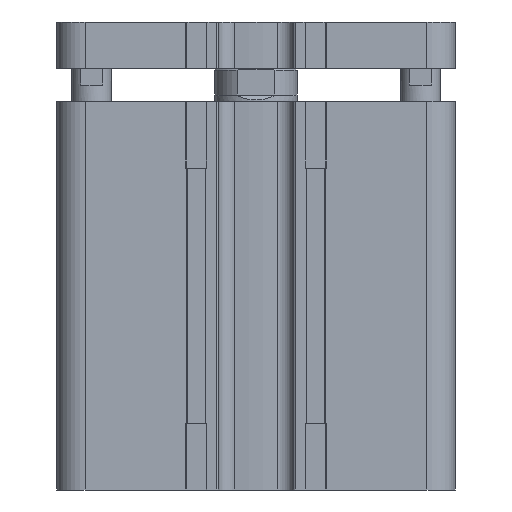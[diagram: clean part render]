
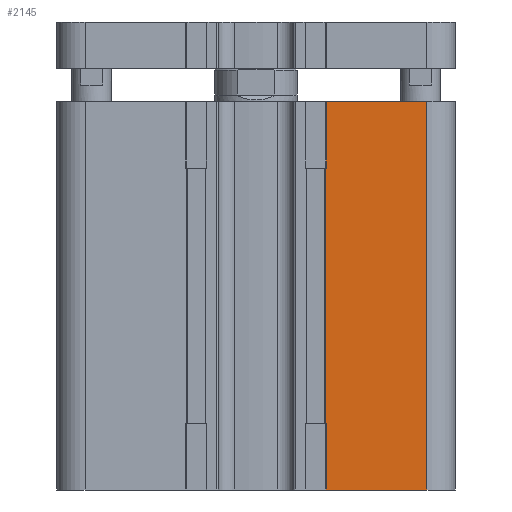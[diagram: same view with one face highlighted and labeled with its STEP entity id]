
A CAD part, front view. The second image highlights one B-rep face of the part: STEP entity #2145.
In plain terms, the highlighted planar face has unit normal (0, -1, 0).
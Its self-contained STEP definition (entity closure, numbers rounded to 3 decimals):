
#1006 = CARTESIAN_POINT ( 'NONE',  ( 20.875, -60., 77. ) ) ;
#1011 = CARTESIAN_POINT ( 'NONE',  ( 21.2, -60., 77. ) ) ;
#1012 = CARTESIAN_POINT ( 'NONE',  ( 20.875, -60., 0. ) ) ;
#1013 = CARTESIAN_POINT ( 'NONE',  ( 51.5, -60., 97. ) ) ;
#2145 = ADVANCED_FACE ( 'NONE', ( #22958 ), #24031, .F. ) ;
#2507 = VERTEX_POINT ( 'NONE', #1006 ) ;
#2510 = VERTEX_POINT ( 'NONE', #1011 ) ;
#2512 = VERTEX_POINT ( 'NONE', #1012 ) ;
#2514 = VERTEX_POINT ( 'NONE', #1013 ) ;
#3024 = EDGE_LOOP ( 'NONE', ( #19832, #19833, #19834, #19835, #19836, #19837, #19838, #19839 ) ) ;
#3893 = EDGE_CURVE ( 'NONE', #20493, #20695, #23821, .T. ) ;
#4142 = EDGE_CURVE ( 'NONE', #21070, #2510, #8670, .T. ) ;
#4144 = EDGE_CURVE ( 'NONE', #2507, #2510, #8672, .T. ) ;
#4146 = EDGE_CURVE ( 'NONE', #2507, #2512, #8674, .T. ) ;
#4148 = EDGE_CURVE ( 'NONE', #2512, #20493, #8676, .T. ) ;
#4150 = EDGE_CURVE ( 'NONE', #21066, #20695, #8678, .T. ) ;
#4153 = EDGE_CURVE ( 'NONE', #21066, #2514, #8680, .T. ) ;
#4154 = EDGE_CURVE ( 'NONE', #21070, #2514, #8682, .T. ) ;
#4837 = CARTESIAN_POINT ( 'NONE',  ( 21.2, -60., -20. ) ) ;
#4851 = DIRECTION ( 'NONE',  ( 0., 0., -1. ) ) ;
#5335 = CARTESIAN_POINT ( 'NONE',  ( 21.2, -60., -20. ) ) ;
#5336 = DIRECTION ( 'NONE',  ( 0., 0., -1. ) ) ;
#5337 = CARTESIAN_POINT ( 'NONE',  ( 20.675, -60., 77. ) ) ;
#5338 = DIRECTION ( 'NONE',  ( 1., 0., 0. ) ) ;
#5339 = CARTESIAN_POINT ( 'NONE',  ( 20.875, -60., 77. ) ) ;
#5340 = DIRECTION ( 'NONE',  ( 0., 0., -1. ) ) ;
#5341 = CARTESIAN_POINT ( 'NONE',  ( 20.675, -60., 0. ) ) ;
#5342 = DIRECTION ( 'NONE',  ( 1., 0., 0. ) ) ;
#5343 = CARTESIAN_POINT ( 'NONE',  ( 21., -60., -20. ) ) ;
#5344 = DIRECTION ( 'NONE',  ( -1., 0., 0. ) ) ;
#5345 = CARTESIAN_POINT ( 'NONE',  ( 51.5, -60., -20. ) ) ;
#5346 = DIRECTION ( 'NONE',  ( 0., 0., 1. ) ) ;
#5347 = CARTESIAN_POINT ( 'NONE',  ( 60., -60., 97. ) ) ;
#5348 = DIRECTION ( 'NONE',  ( 1., 0., 0. ) ) ;
#8670 = LINE ( 'NONE', #5335, #8673 ) ;
#8672 = LINE ( 'NONE', #5337, #8675 ) ;
#8673 = VECTOR ( 'NONE', #5336, 1000. ) ;
#8674 = LINE ( 'NONE', #5339, #8677 ) ;
#8675 = VECTOR ( 'NONE', #5338, 1000. ) ;
#8676 = LINE ( 'NONE', #5341, #8679 ) ;
#8677 = VECTOR ( 'NONE', #5340, 1000. ) ;
#8678 = LINE ( 'NONE', #5343, #8681 ) ;
#8679 = VECTOR ( 'NONE', #5342, 1000. ) ;
#8680 = LINE ( 'NONE', #5345, #8683 ) ;
#8681 = VECTOR ( 'NONE', #5344, 1000. ) ;
#8682 = LINE ( 'NONE', #5347, #8685 ) ;
#8683 = VECTOR ( 'NONE', #5346, 1000. ) ;
#8685 = VECTOR ( 'NONE', #5348, 1000. ) ;
#16354 = CARTESIAN_POINT ( 'NONE',  ( 21.2, -60., 0. ) ) ;
#16556 = CARTESIAN_POINT ( 'NONE',  ( 21.2, -60., -20. ) ) ;
#18651 = CARTESIAN_POINT ( 'NONE',  ( 51.5, -60., -20. ) ) ;
#18660 = CARTESIAN_POINT ( 'NONE',  ( 21.2, -60., 97. ) ) ;
#19832 = ORIENTED_EDGE ( 'NONE', *, *, #4142, .T. ) ;
#19833 = ORIENTED_EDGE ( 'NONE', *, *, #4144, .F. ) ;
#19834 = ORIENTED_EDGE ( 'NONE', *, *, #4146, .T. ) ;
#19835 = ORIENTED_EDGE ( 'NONE', *, *, #4148, .T. ) ;
#19836 = ORIENTED_EDGE ( 'NONE', *, *, #3893, .T. ) ;
#19837 = ORIENTED_EDGE ( 'NONE', *, *, #4150, .F. ) ;
#19838 = ORIENTED_EDGE ( 'NONE', *, *, #4153, .T. ) ;
#19839 = ORIENTED_EDGE ( 'NONE', *, *, #4154, .F. ) ;
#20493 = VERTEX_POINT ( 'NONE', #16354 ) ;
#20695 = VERTEX_POINT ( 'NONE', #16556 ) ;
#21066 = VERTEX_POINT ( 'NONE', #18651 ) ;
#21070 = VERTEX_POINT ( 'NONE', #18660 ) ;
#22099 = AXIS2_PLACEMENT_3D ( 'NONE', #24024, #24033, #24034 ) ;
#22958 = FACE_OUTER_BOUND ( 'NONE', #3024, .T. ) ;
#23821 = LINE ( 'NONE', #4837, #23823 ) ;
#23823 = VECTOR ( 'NONE', #4851, 1000. ) ;
#24024 = CARTESIAN_POINT ( 'NONE',  ( 21., -60., -20. ) ) ;
#24031 = PLANE ( 'NONE',  #22099 ) ;
#24033 = DIRECTION ( 'NONE',  ( 0., 1., 0. ) ) ;
#24034 = DIRECTION ( 'NONE',  ( 1., 0., 0. ) ) ;
